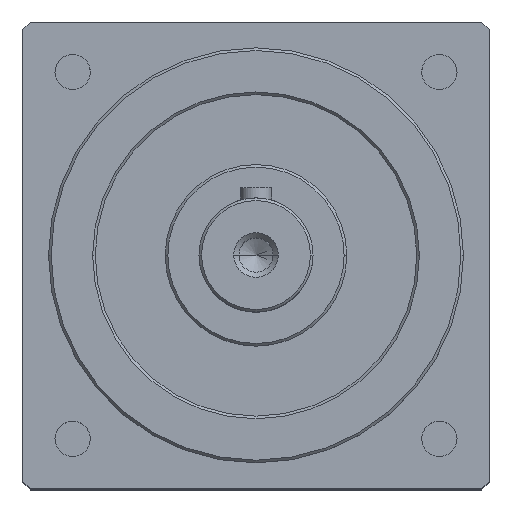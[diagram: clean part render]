
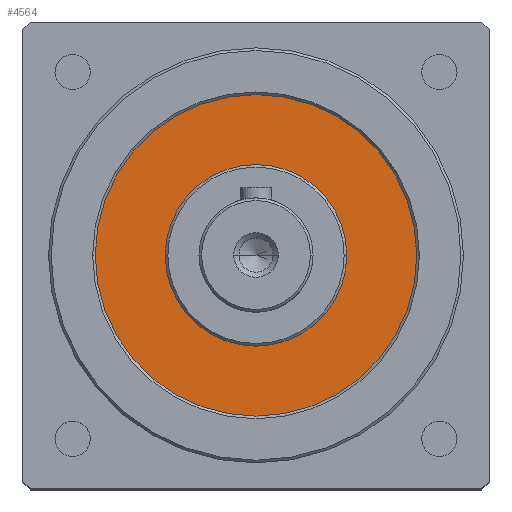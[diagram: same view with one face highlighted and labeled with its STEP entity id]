
A CAD part, top view. The second image highlights one B-rep face of the part: STEP entity #4564.
In plain terms, the highlighted planar face has unit normal (0, 0, 1).
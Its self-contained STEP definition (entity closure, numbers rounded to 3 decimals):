
#92 = DIRECTION ( 'NONE',  ( 0., 0., 1. ) ) ;
#257 = CARTESIAN_POINT ( 'NONE',  ( 0., 0., 138.5 ) ) ;
#350 = CARTESIAN_POINT ( 'NONE',  ( -17.5, 0., 138.5 ) ) ;
#368 = FACE_BOUND ( 'NONE', #4451, .T. ) ;
#525 = AXIS2_PLACEMENT_3D ( 'NONE', #2628, #6571, #3200 ) ;
#584 = CIRCLE ( 'NONE', #5359, 17.5 ) ;
#600 = CARTESIAN_POINT ( 'NONE',  ( 0., 0., 138.5 ) ) ;
#823 = DIRECTION ( 'NONE',  ( 1., 0., 0. ) ) ;
#926 = ORIENTED_EDGE ( 'NONE', *, *, #1507, .F. ) ;
#1213 = CIRCLE ( 'NONE', #2442, 31. ) ;
#1277 = VERTEX_POINT ( 'NONE', #6271 ) ;
#1491 = DIRECTION ( 'NONE',  ( 0., 0., 1. ) ) ;
#1507 = EDGE_CURVE ( 'NONE', #1277, #5091, #2314, .T. ) ;
#1587 = EDGE_CURVE ( 'NONE', #5091, #1277, #584, .T. ) ;
#1590 = CIRCLE ( 'NONE', #1915, 31. ) ;
#1742 = VERTEX_POINT ( 'NONE', #7325 ) ;
#1809 = VERTEX_POINT ( 'NONE', #2862 ) ;
#1872 = ORIENTED_EDGE ( 'NONE', *, *, #4461, .T. ) ;
#1915 = AXIS2_PLACEMENT_3D ( 'NONE', #257, #4243, #823 ) ;
#2314 = CIRCLE ( 'NONE', #7253, 17.5 ) ;
#2442 = AXIS2_PLACEMENT_3D ( 'NONE', #4904, #1491, #5461 ) ;
#2600 = PLANE ( 'NONE',  #525 ) ;
#2628 = CARTESIAN_POINT ( 'NONE',  ( 0., 0., 138.5 ) ) ;
#2845 = ORIENTED_EDGE ( 'NONE', *, *, #5086, .T. ) ;
#2862 = CARTESIAN_POINT ( 'NONE',  ( -31., 0., 138.5 ) ) ;
#3200 = DIRECTION ( 'NONE',  ( 1., 0., 0. ) ) ;
#3316 = ORIENTED_EDGE ( 'NONE', *, *, #1587, .F. ) ;
#3404 = FACE_OUTER_BOUND ( 'NONE', #3573, .T. ) ;
#3523 = CARTESIAN_POINT ( 'NONE',  ( 0., 0., 138.5 ) ) ;
#3573 = EDGE_LOOP ( 'NONE', ( #2845, #1872 ) ) ;
#4089 = DIRECTION ( 'NONE',  ( 1., 0., 0. ) ) ;
#4243 = DIRECTION ( 'NONE',  ( 0., 0., 1. ) ) ;
#4451 = EDGE_LOOP ( 'NONE', ( #926, #3316 ) ) ;
#4461 = EDGE_CURVE ( 'NONE', #1809, #1742, #1590, .T. ) ;
#4564 = ADVANCED_FACE ( 'NONE', ( #368, #3404 ), #2600, .T. ) ;
#4566 = DIRECTION ( 'NONE',  ( 0., 0., 1. ) ) ;
#4904 = CARTESIAN_POINT ( 'NONE',  ( 0., 0., 138.5 ) ) ;
#5008 = DIRECTION ( 'NONE',  ( 1., 0., 0. ) ) ;
#5086 = EDGE_CURVE ( 'NONE', #1742, #1809, #1213, .T. ) ;
#5091 = VERTEX_POINT ( 'NONE', #350 ) ;
#5359 = AXIS2_PLACEMENT_3D ( 'NONE', #3523, #92, #4089 ) ;
#5461 = DIRECTION ( 'NONE',  ( 1., 0., 0. ) ) ;
#6271 = CARTESIAN_POINT ( 'NONE',  ( 17.5, 0., 138.5 ) ) ;
#6571 = DIRECTION ( 'NONE',  ( 0., 0., 1. ) ) ;
#7253 = AXIS2_PLACEMENT_3D ( 'NONE', #600, #4566, #5008 ) ;
#7325 = CARTESIAN_POINT ( 'NONE',  ( 31., 0., 138.5 ) ) ;
